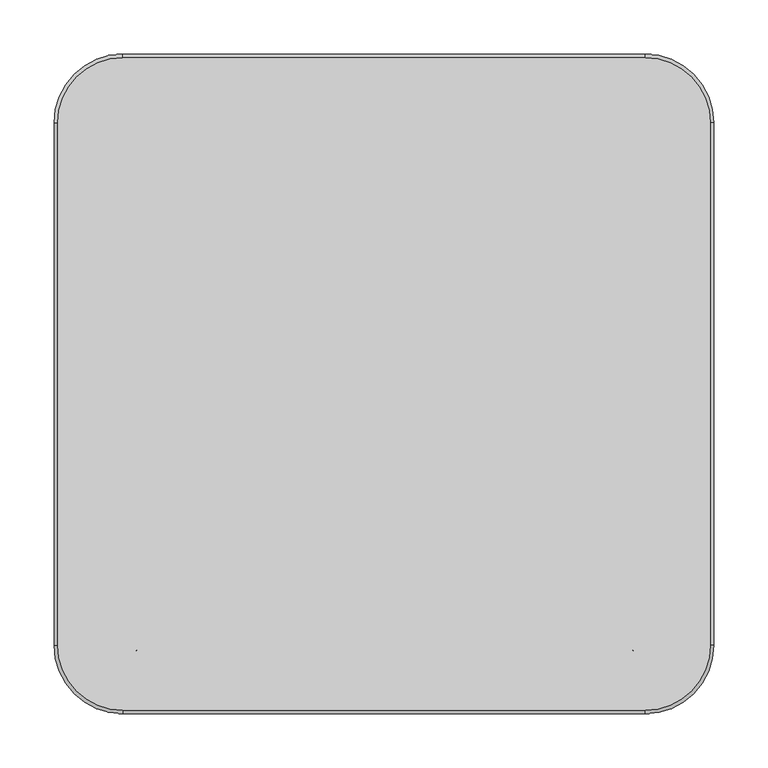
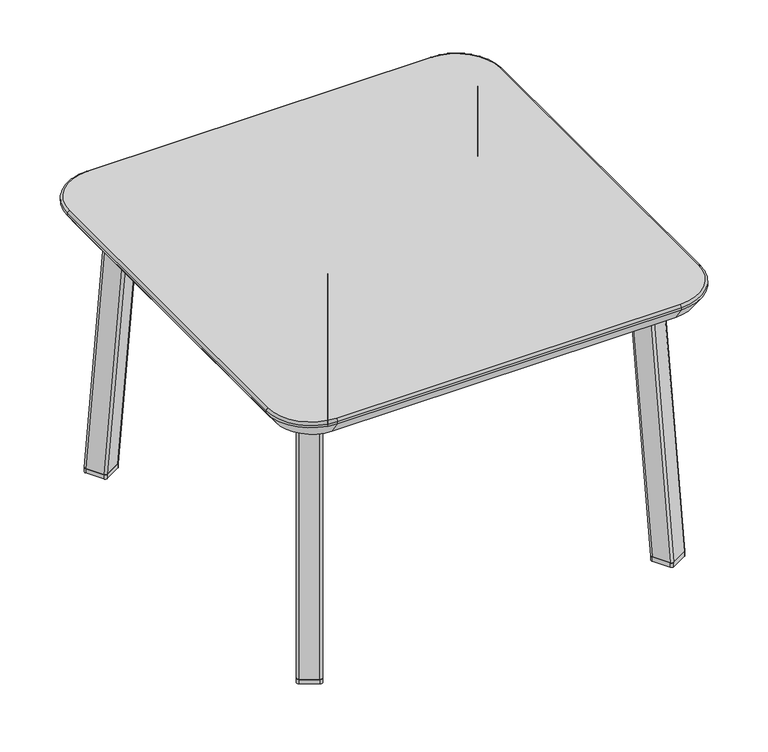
"""IFC4 building model written with IfcOpenShell, lengths in millimetres: furniture geometry, Stance_HC-Jensen-Occasional-Table : JETF242416-T."""

import ifcopenshell
import ifcopenshell.guid

model = None  # the IFC model being written
_history = None  # IfcOwnerHistory: only IFC2X3 demands one
_inside = {}  # id of a spatial element -> (the spatial element, [elements in it])
_under = {}  # id of a project, library or spatial element -> (it, [spatial elements below it])
_declared = {}  # id of a project -> (the project, [libraries it declares])
_typed = {}  # id of a type object -> (the type object, [elements of that type])
_made_of = {}  # id of a material, layer set ... -> (it, [elements and type objects made of it])


def new_model(schema):
    """Start an empty IFC model of exactly this schema.

    Asked for "IFC4X3", IfcOpenShell would pick the latest addendum, in which some entities
    have other attributes; the version numbers below select the first issue.
    IFC2X3 requires an IfcOwnerHistory on every rooted entity: one is made here for all.
    """
    global model, _history
    if schema == "IFC4X3":
        model = ifcopenshell.file(schema_version=(4, 3, 0, 0))
    else:
        model = ifcopenshell.file(schema=schema)
    _inside.clear()
    _under.clear()
    _declared.clear()
    _typed.clear()
    _made_of.clear()
    _history = None
    if model.schema == "IFC2X3":
        org = make("IfcOrganization", Name="unknown")
        user = make(
            "IfcPersonAndOrganization",
            ThePerson=make("IfcPerson", FamilyName="unknown"),
            TheOrganization=org,
        )
        app = make(
            "IfcApplication",
            ApplicationDeveloper=org,
            Version="unknown",
            ApplicationFullName="unknown",
            ApplicationIdentifier="unknown",
        )
        _history = make(
            "IfcOwnerHistory",
            OwningUser=user,
            OwningApplication=app,
            ChangeAction="ADDED",
            CreationDate=0,
        )
    return model


def make(cls, **values):
    """One entity of the class cls with the attributes given. An attribute that is None is left unset."""
    return model.create_entity(
        cls, **{name: value for name, value in values.items() if value is not None}
    )


def rooted(cls, **values):
    """An entity with a GlobalId (a new one), such as an element, a storey or a relation."""
    return make(cls, GlobalId=ifcopenshell.guid.new(), OwnerHistory=_history, **values)


def si_unit(unit_type, name, prefix=None):
    """IfcSIUnit, for example si_unit("LENGTHUNIT", "METRE", prefix="MILLI")."""
    return make("IfcSIUnit", UnitType=unit_type, Prefix=prefix, Name=name)


def assignment(units):
    """IfcUnitAssignment: the units of a project."""
    return None if units is None else make("IfcUnitAssignment", Units=units)


def point(xyz):
    """IfcCartesianPoint."""
    return None if xyz is None else make("IfcCartesianPoint", Coordinates=xyz)


def direction(xyz):
    """IfcDirection."""
    return None if xyz is None else make("IfcDirection", DirectionRatios=xyz)


def frame(location, z_axis=None, x_axis=None):
    """IfcAxis2Placement3D, a coordinate frame: its origin and axes. An axis left out is left unset."""
    return make(
        "IfcAxis2Placement3D",
        Location=point(location),
        Axis=direction(z_axis),
        RefDirection=direction(x_axis),
    )


def frame_2d(location, x_axis=None):
    """IfcAxis2Placement2D, a coordinate frame in the plane: its origin and x axis."""
    return make(
        "IfcAxis2Placement2D", Location=point(location), RefDirection=direction(x_axis)
    )


def origin():
    """The frame at (0, 0, 0) with its axes left unset."""
    return frame((0.0, 0.0, 0.0))


def origin_with_axes():
    """The frame at (0, 0, 0) with the z axis (0, 0, 1) and the x axis (1, 0, 0) written out."""
    return frame((0.0, 0.0, 0.0), z_axis=(0.0, 0.0, 1.0), x_axis=(1.0, 0.0, 0.0))


def place(relative_to, where):
    """IfcLocalPlacement: puts the frame where relative to a parent placement (None: the world)."""
    return make(
        "IfcLocalPlacement", PlacementRelTo=relative_to, RelativePlacement=where
    )


def context(
    kind, dimensions, precision=None, world=None, true_north=None, identifier=None
):
    """IfcGeometricRepresentationContext, for example the 3D "Model" context."""
    return make(
        "IfcGeometricRepresentationContext",
        ContextIdentifier=identifier,
        ContextType=kind,
        CoordinateSpaceDimension=dimensions,
        Precision=precision,
        WorldCoordinateSystem=world,
        TrueNorth=true_north,
    )


def project(units=None, contexts=None):
    """IfcProject with its units and contexts."""
    return rooted(
        "IfcProject",
        Name="project",
        RepresentationContexts=contexts,
        UnitsInContext=assignment(units),
    )


def spatial(cls, under=None, at=None, **own):
    """A site, building, storey or space (cls), placed at a placement, below another one or the project."""
    s = rooted(cls, ObjectPlacement=at, **own)
    if under is not None:
        _under.setdefault(under.id(), (under, []))[1].append(s)
    return s


def polyline(points):
    """IfcPolyline through the points."""
    return make("IfcPolyline", Points=[point(p) for p in points])


def circle_curve(where, radius):
    """IfcCircle in the frame where."""
    return make("IfcCircle", Position=where, Radius=radius)


def ellipse_curve(where, semi_axis1, semi_axis2):
    """IfcEllipse in the frame where."""
    return make(
        "IfcEllipse", Position=where, SemiAxis1=semi_axis1, SemiAxis2=semi_axis2
    )


def trimmed(basis, trim1, trim2, sense, master):
    """IfcTrimmedCurve: the piece of a basis curve between two trims."""
    return make(
        "IfcTrimmedCurve",
        BasisCurve=basis,
        Trim1=trim1,
        Trim2=trim2,
        SenseAgreement=sense,
        MasterRepresentation=master,
    )


def segment(curve, same_sense, transition):
    """IfcCompositeCurveSegment."""
    return make(
        "IfcCompositeCurveSegment",
        Transition=transition,
        SameSense=same_sense,
        ParentCurve=curve,
    )


def composite_curve(segments, self_intersect=None):
    """IfcCompositeCurve: segments joined end to end."""
    return make("IfcCompositeCurve", Segments=segments, SelfIntersect=self_intersect)


def outline(outer, holes=None, kind="AREA"):
    """IfcArbitraryClosedProfileDef: a profile drawn as a closed curve; with holes, ...WithVoids."""
    if holes is None:
        return make("IfcArbitraryClosedProfileDef", ProfileType=kind, OuterCurve=outer)
    return make(
        "IfcArbitraryProfileDefWithVoids",
        ProfileType=kind,
        OuterCurve=outer,
        InnerCurves=holes,
    )


def extrude(swept, where, along, depth):
    """IfcExtrudedAreaSolid: the profile swept, set in the frame where, extruded along a direction by depth."""
    return make(
        "IfcExtrudedAreaSolid",
        SweptArea=swept,
        Position=where,
        ExtrudedDirection=direction(along),
        Depth=depth,
    )


def shape(context_of_items, identifier, shape_type, items):
    """IfcShapeRepresentation: the items that make up one representation, for example the "Body"."""
    return make(
        "IfcShapeRepresentation",
        ContextOfItems=context_of_items,
        RepresentationIdentifier=identifier,
        RepresentationType=shape_type,
        Items=items,
    )


def source(mapping_origin, context_of_items, identifier, shape_type, items):
    """IfcRepresentationMap: a shape defined once, which mapped items show again and again."""
    return make(
        "IfcRepresentationMap",
        MappingOrigin=mapping_origin,
        MappedRepresentation=shape(context_of_items, identifier, shape_type, items),
    )


def transform(
    local_origin,
    x_axis=None,
    y_axis=None,
    z_axis=None,
    scale=None,
    scale2=None,
    scale3=None,
    uniform=True,
):
    """IfcCartesianTransformationOperator3D, or its non-uniform kind. x_axis, y_axis, z_axis: its Axis1, 2, 3."""
    if uniform:
        return make(
            "IfcCartesianTransformationOperator3D",
            Axis1=direction(x_axis),
            Axis2=direction(y_axis),
            LocalOrigin=point(local_origin),
            Scale=scale,
            Axis3=direction(z_axis),
        )
    return make(
        "IfcCartesianTransformationOperator3DnonUniform",
        Axis1=direction(x_axis),
        Axis2=direction(y_axis),
        LocalOrigin=point(local_origin),
        Scale=scale,
        Axis3=direction(z_axis),
        Scale2=scale2,
        Scale3=scale3,
    )


def mapped(mapping_source, mapping_target):
    """IfcMappedItem: shows the shape of a source again, moved by a transform."""
    return make(
        "IfcMappedItem", MappingSource=mapping_source, MappingTarget=mapping_target
    )


def made_of(thing, what):
    """Note that an element or type object is made of a material, layer set ...; save() writes the relation."""
    if what is not None:
        _made_of.setdefault(what.id(), (what, []))[1].append(thing)
    return thing


def element(
    cls,
    number,
    at=None,
    inside=None,
    cuts=None,
    type_object=None,
    material=None,
    context=None,
    identifier="Body",
    shape_type=None,
    held_by="IfcProductDefinitionShape",
    body=None,
    shapes=None,
    **own,
):
    """One element of the class cls, such as IfcWall. Its Tag is "e" and its number.

    at: its placement. inside: the storey or other place that contains it. cuts: it is an
    opening in that element (IfcRelVoidsElement). A single representation is given by context,
    identifier, shape_type and body (its items); several are given by shapes. held_by: the class
    of the entity that holds the representations. save() writes the other relations.
    """
    e = rooted(cls, Tag="e%d" % number, ObjectPlacement=at, **own)
    if body is not None:
        shapes = [shape(context, identifier, shape_type, body)]
    if shapes is not None:
        e.Representation = make(held_by, Representations=shapes)
    if inside is not None:
        _inside.setdefault(inside.id(), (inside, []))[1].append(e)
    if cuts is not None:
        rooted(
            "IfcRelVoidsElement", RelatingBuildingElement=cuts, RelatedOpeningElement=e
        )
    if type_object is not None:
        _typed.setdefault(type_object.id(), (type_object, []))[1].append(e)
    return made_of(e, material)


def aggregate(whole, parts):
    """IfcRelAggregates: a whole, such as a stair, and the parts it consists of."""
    return rooted("IfcRelAggregates", RelatingObject=whole, RelatedObjects=parts)


def save(model, path):
    """Write the relations noted so far, then the file.

    IfcRelAggregates (storeys below a building ...), IfcRelContainedInSpatialStructure (elements
    in a storey), IfcRelDefinesByType, IfcRelAssociatesMaterial and IfcRelDeclares: one each for
    every whole, place, type object, material and project.
    """
    for whole, parts in _under.values():
        aggregate(whole, parts)
    for where, things in _inside.values():
        rooted(
            "IfcRelContainedInSpatialStructure",
            RelatedElements=things,
            RelatingStructure=where,
        )
    for kind, things in _typed.values():
        rooted("IfcRelDefinesByType", RelatedObjects=things, RelatingType=kind)
    for what, things in _made_of.values():
        rooted("IfcRelAssociatesMaterial", RelatedObjects=things, RelatingMaterial=what)
    for by, libraries in _declared.values():
        rooted("IfcRelDeclares", RelatingContext=by, RelatedDefinitions=libraries)
    model.write(path)


def plane_surface(at):
    """IfcPlane: the flat surface through the origin of the frame at, square to its z axis."""
    return make("IfcPlane", Position=at)


def cylinder_surface(at, radius):
    """IfcCylindricalSurface: all points at the distance radius from the z axis of the frame at."""
    return make("IfcCylindricalSurface", Position=at, Radius=radius)


def revolved_surface(curve, axis_point, axis_direction):
    """IfcSurfaceOfRevolution: the curve turned about the line through axis_point along axis_direction."""
    return make(
        "IfcSurfaceOfRevolution",
        SweptCurve=make("IfcArbitraryOpenProfileDef", ProfileType="CURVE", Curve=curve),
        AxisPosition=make("IfcAxis1Placement", Location=point(axis_point), Axis=direction(axis_direction)),
    )


def extruded_surface(curve, direction_of_extrusion, depth):
    """IfcSurfaceOfLinearExtrusion: the curve pushed along a direction by depth."""
    return make(
        "IfcSurfaceOfLinearExtrusion",
        SweptCurve=make("IfcArbitraryOpenProfileDef", ProfileType="CURVE", Curve=curve),
        ExtrudedDirection=direction(direction_of_extrusion),
        Depth=depth,
    )


def advanced_brep(points, edges, surfaces, faces):
    """IfcAdvancedBrep: a solid bounded by faces that lie on surfaces and meet in shared edges.

    An edge is (start, end): straight between two places in points (the first is 0);
    or (start, end, curve); or (start, end, curve, False) where it runs against its curve.
    A face is (place in surfaces, loops), or (place, loops, False) where it looks against
    its surface's normal. A loop lists edges by number (the first is 1), with a minus sign
    where the edge is run from its end to its start. The first loop is the outer one.
    """
    corners = [point(p) for p in points]
    vertices = [make("IfcVertexPoint", VertexGeometry=c) for c in corners]
    made = []
    for start, end, *more in edges:
        made.append(
            make(
                "IfcEdgeCurve",
                EdgeStart=vertices[start],
                EdgeEnd=vertices[end],
                EdgeGeometry=more[0] if more else make("IfcPolyline", Points=[corners[start], corners[end]]),
                SameSense=more[1] if len(more) > 1 else True,
            )
        )
    hull = []
    for where, loops, *sense in faces:
        bounds = []
        for j, loop in enumerate(loops):
            ring = [make("IfcOrientedEdge", EdgeElement=made[abs(k) - 1], Orientation=k > 0) for k in loop]
            bounds.append(
                make(
                    "IfcFaceOuterBound" if j == 0 else "IfcFaceBound",
                    Bound=make("IfcEdgeLoop", EdgeList=ring),
                    Orientation=True,
                )
            )
        hull.append(make("IfcAdvancedFace", Bounds=bounds, FaceSurface=surfaces[where], SameSense=sense[0] if sense else True))
    return make("IfcAdvancedBrep", Outer=make("IfcClosedShell", CfsFaces=hull))


def furniture_91481f12(model_context):
    return source(origin(), model_context, "Body", "SolidModel", [
        extrude(outline(composite_curve([segment(polyline([(270.881574, -260.4321033), (248.8845247, -273.1321056)]), True, "CONTINUOUS"), segment(trimmed(circle_curve(frame_2d((247.2970247, -270.382475)), 3.175), [point((248.8845247, -273.1321056))], [point((244.547394, -271.969975))], False, "CARTESIAN"), True, "CONTINUOUS"), segment(polyline([(244.547394, -271.969975), (231.7983038, -249.887903)]), True, "CONTINUOUS"), segment(trimmed(circle_curve(frame_2d((234.5479345, -248.300403)), 3.175), [point((231.7983038, -249.887903))], [point((232.9604345, -245.5507723))], False, "CARTESIAN"), True, "CONTINUOUS"), segment(polyline([(232.9604345, -245.5507723), (254.9574838, -232.85077)]), True, "CONTINUOUS"), segment(trimmed(circle_curve(frame_2d((256.5449838, -235.6004007)), 3.175), [point((254.9574838, -232.85077))], [point((259.2946144, -234.0129007))], False, "CARTESIAN"), True, "CONTINUOUS"), segment(polyline([(259.2946144, -234.0129007), (272.0437046, -256.0949726)]), True, "CONTINUOUS"), segment(trimmed(circle_curve(frame_2d((269.294074, -257.6824726)), 3.175), [point((272.0437046, -256.0949726))], [point((270.881574, -260.4321033))], False, "CARTESIAN"), True, "CONTINUOUS")], self_intersect=False)), origin_with_axes(), (0.0, 0.0, 1.0), 6.35),
        extrude(outline(composite_curve([segment(polyline([(248.8845247, 273.1321056), (270.881574, 260.4321033)]), True, "CONTINUOUS"), segment(trimmed(circle_curve(frame_2d((269.294074, 257.6824726)), 3.175), [point((270.881574, 260.4321033))], [point((272.0437046, 256.0949726))], False, "CARTESIAN"), True, "CONTINUOUS"), segment(polyline([(272.0437046, 256.0949726), (259.2946144, 234.0129007)]), True, "CONTINUOUS"), segment(trimmed(circle_curve(frame_2d((256.5449838, 235.6004007)), 3.175), [point((259.2946144, 234.0129007))], [point((254.9574838, 232.85077))], False, "CARTESIAN"), True, "CONTINUOUS"), segment(polyline([(254.9574838, 232.85077), (232.9604345, 245.5507723)]), True, "CONTINUOUS"), segment(trimmed(circle_curve(frame_2d((234.5479345, 248.300403)), 3.175), [point((232.9604345, 245.5507723))], [point((231.7983038, 249.887903))], False, "CARTESIAN"), True, "CONTINUOUS"), segment(polyline([(231.7983038, 249.887903), (244.547394, 271.969975)]), True, "CONTINUOUS"), segment(trimmed(circle_curve(frame_2d((247.2970247, 270.382475)), 3.175), [point((244.547394, 271.969975))], [point((248.8845247, 273.1321056))], False, "CARTESIAN"), True, "CONTINUOUS")], self_intersect=False)), origin_with_axes(), (0.0, 0.0, 1.0), 6.35),
        advanced_brep(
        [(218.1120024, -219.8325373, 380.5094413), (216.9498717, -224.1696679, 380.5094413), (229.6989619, -246.2517399, 380.5094413), (234.0360926, -247.4138706, 380.5094413), (256.0331418, -234.7138683, 380.5094413), (257.1952725, -230.3767376, 380.5094413), (244.4461823, -208.2946656, 380.5094413), (240.1090516, -207.132535, 380.5094413), (232.9604345, -245.5507723, 6.35), (254.9574838, -232.85077, 6.35), (259.2946144, -234.0129007, 6.35), (272.0437046, -256.0949726, 6.35), (270.881574, -260.4321033, 6.35), (248.8845247, -273.1321056, 6.35), (244.547394, -271.969975, 6.35), (231.7983038, -249.887903, 6.35)],
        [
            (0, 1, circle_curve(frame((219.6995024, -222.5821679, 380.5094413), z_axis=(0.0, 0.0, 1.0), x_axis=(-1.0, 0.0, 0.0)), 3.175)),
            (1, 2),
            (2, 3, circle_curve(frame((232.4485926, -244.6642399, 380.5094413), z_axis=(0.0, 0.0, 1.0), x_axis=(-1.0, 0.0, 0.0)), 3.175)),
            (3, 4),
            (4, 5, circle_curve(frame((254.4456418, -231.9642376, 380.5094413), z_axis=(0.0, 0.0, 1.0), x_axis=(-1.0, 0.0, 0.0)), 3.175)),
            (5, 6),
            (6, 7, circle_curve(frame((241.6965516, -209.8821656, 380.5094413), z_axis=(0.0, 0.0, 1.0), x_axis=(-1.0, 0.0, 0.0)), 3.175)),
            (7, 0),
            (8, 9),
            (9, 10, circle_curve(frame((256.5449838, -235.6004007, 6.35), z_axis=(0.0, 0.0, -1.0), x_axis=(-1.0, 0.0, 0.0)), 3.175)),
            (10, 11),
            (11, 12, circle_curve(frame((269.294074, -257.6824726, 6.35), z_axis=(0.0, 0.0, -1.0), x_axis=(-1.0, 0.0, 0.0)), 3.175)),
            (12, 13),
            (13, 14, circle_curve(frame((247.2970247, -270.382475, 6.35), z_axis=(0.0, 0.0, -1.0), x_axis=(-1.0, 0.0, 0.0)), 3.175)),
            (14, 15),
            (15, 8, circle_curve(frame((234.5479345, -248.300403, 6.35), z_axis=(0.0, 0.0, -1.0), x_axis=(-1.0, 0.0, 0.0)), 3.175)),
            (15, 1),
            (0, 8),
            (14, 2),
            (13, 3),
            (12, 4),
            (11, 5),
            (10, 6),
            (9, 7),
        ],
        [
            plane_surface(frame((237.0725721, -227.2732028, 380.5094413), z_axis=(0.0, 0.0, 1.0), x_axis=(0.8660254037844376, 0.5000000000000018, 0.0))),
            plane_surface(frame((251.9210042, -252.9914378, 6.35), z_axis=(0.0, 0.0, -1.0), x_axis=(0.8660254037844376, 0.5000000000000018, 0.0))),
            extruded_surface(trimmed(circle_curve(frame((219.6995024, -222.5821679, 380.5094413), z_axis=(0.0, 0.0, -1.0), x_axis=(-1.0, 0.0, 0.0)), 3.175), [point((216.9498717, -224.1696679, 380.5094413))], [point((218.1120024, -219.8325373, 380.5094413))], True, "CARTESIAN"), (14.848432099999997, -25.718235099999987, -374.15944129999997), 375.3361041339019),
            plane_surface(frame((238.1728489, -260.928939, 6.35), z_axis=(-0.8660254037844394, -0.49999999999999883, -5.114262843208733e-09), x_axis=(-0.49999999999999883, 0.8660254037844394, 0.0))),
            extruded_surface(trimmed(circle_curve(frame((232.4485926, -244.6642399, 380.5094413), z_axis=(0.0, 0.0, -1.0), x_axis=(-1.0, 0.0, 0.0)), 3.175), [point((234.0360926, -247.4138706, 380.5094413))], [point((229.6989619, -246.2517399, 380.5094413))], True, "CARTESIAN"), (14.848432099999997, -25.718235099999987, -374.15944129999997), 375.3361041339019),
            plane_surface(frame((259.8830493, -266.7821045, 6.35), z_axis=(0.49843252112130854, -0.8633104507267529, 0.0791207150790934), x_axis=(-0.8660254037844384, -0.5000000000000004, 0.0))),
            extruded_surface(trimmed(circle_curve(frame((254.4456418, -231.9642376, 380.5094413), z_axis=(0.0, 0.0, -1.0), x_axis=(-1.0, 0.0, 0.0)), 3.175), [point((257.1952725, -230.3767376, 380.5094413))], [point((256.0331418, -234.7138683, 380.5094413))], True, "CARTESIAN"), (14.848432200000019, -25.718234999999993, -374.15944129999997), 375.3361041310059),
            plane_surface(frame((265.6691595, -245.0539367, 6.35), z_axis=(0.8660254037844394, 0.4999999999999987, 5.114262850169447e-09), x_axis=(0.4999999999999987, -0.8660254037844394, 0.0))),
            extruded_surface(trimmed(circle_curve(frame((241.6965516, -209.8821656, 380.5094413), z_axis=(0.0, 0.0, -1.0), x_axis=(-1.0, 0.0, 0.0)), 3.175), [point((240.1090516, -207.132535, 380.5094413))], [point((244.4461823, -208.2946656, 380.5094413))], True, "CARTESIAN"), (14.848432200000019, -25.718235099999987, -374.15944129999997), 375.336104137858),
            plane_surface(frame((243.9589591, -239.2007712, 6.35), z_axis=(-0.49843252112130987, 0.8633104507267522, -0.07912071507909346), x_axis=(0.8660254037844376, 0.5000000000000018, 0.0))),
        ],
        [
            (0, [[1, 2, 3, 4, 5, 6, 7, 8]]),
            (1, [[9, 10, 11, 12, 13, 14, 15, 16]]),
            (2, [[17, -1, 18, -16]]),
            (3, [[19, -2, -17, -15]]),
            (4, [[20, -3, -19, -14]]),
            (5, [[21, -4, -20, -13]]),
            (6, [[22, -5, -21, -12]]),
            (7, [[23, -6, -22, -11]]),
            (8, [[24, -7, -23, -10]]),
            (9, [[-18, -8, -24, -9]]),
        ],
    ),
        extrude(outline(polyline([(276.9820372, 251.9484113), (131.4453703, 0.0), (276.9820372, -251.9484113), (238.5068508, -274.1733992), (80.1320372, 0.0), (238.5068508, 274.1733992), (276.9820372, 251.9484113)])), frame((0.0, 0.0, 380.5094413), z_axis=(0.0, 0.0, 1.0), x_axis=(1.0, 0.0, 0.0)), (0.0, 0.0, 1.0), 3.1749879),
        advanced_brep(
        [(218.1120024, 219.8325373, 380.5094413), (240.1090516, 207.132535, 380.5094413), (244.4461823, 208.2946656, 380.5094413), (257.1952725, 230.3767376, 380.5094413), (256.0331418, 234.7138683, 380.5094413), (234.0360926, 247.4138706, 380.5094413), (229.6989619, 246.2517399, 380.5094413), (216.9498717, 224.1696679, 380.5094413), (232.9604345, 245.5507723, 6.35), (231.7983038, 249.887903, 6.35), (244.547394, 271.969975, 6.35), (248.8845247, 273.1321056, 6.35), (270.881574, 260.4321033, 6.35), (272.0437046, 256.0949726, 6.35), (259.2946144, 234.0129007, 6.35), (254.9574838, 232.85077, 6.35)],
        [
            (0, 1),
            (1, 2, circle_curve(frame((241.6965516, 209.8821656, 380.5094413), z_axis=(0.0, 0.0, 1.0), x_axis=(-1.0, 0.0, 0.0)), 3.175)),
            (2, 3),
            (3, 4, circle_curve(frame((254.4456418, 231.9642376, 380.5094413), z_axis=(0.0, 0.0, 1.0), x_axis=(-1.0, 0.0, 0.0)), 3.175)),
            (4, 5),
            (5, 6, circle_curve(frame((232.4485926, 244.6642399, 380.5094413), z_axis=(0.0, 0.0, 1.0), x_axis=(-1.0, 0.0, 0.0)), 3.175)),
            (6, 7),
            (7, 0, circle_curve(frame((219.6995024, 222.5821679, 380.5094413), z_axis=(0.0, 0.0, 1.0), x_axis=(-1.0, 0.0, 0.0)), 3.175)),
            (8, 9, circle_curve(frame((234.5479345, 248.300403, 6.35), z_axis=(0.0, 0.0, -1.0), x_axis=(-1.0, 0.0, 0.0)), 3.175)),
            (9, 10),
            (10, 11, circle_curve(frame((247.2970247, 270.382475, 6.35), z_axis=(0.0, 0.0, -1.0), x_axis=(-1.0, 0.0, 0.0)), 3.175)),
            (11, 12),
            (12, 13, circle_curve(frame((269.294074, 257.6824726, 6.35), z_axis=(0.0, 0.0, -1.0), x_axis=(-1.0, 0.0, 0.0)), 3.175)),
            (13, 14),
            (14, 15, circle_curve(frame((256.5449838, 235.6004007, 6.35), z_axis=(0.0, 0.0, -1.0), x_axis=(-1.0, 0.0, 0.0)), 3.175)),
            (15, 8),
            (8, 0),
            (7, 9),
            (6, 10),
            (5, 11),
            (4, 12),
            (3, 13),
            (2, 14),
            (1, 15),
        ],
        [
            plane_surface(frame((237.0725721, 227.2732028, 380.5094413), z_axis=(0.0, 0.0, 1.0), x_axis=(-0.8660254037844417, 0.49999999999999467, 0.0))),
            plane_surface(frame((251.9210042, 252.9914378, 6.35), z_axis=(0.0, 0.0, -1.0), x_axis=(-0.8660254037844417, 0.49999999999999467, 0.0))),
            extruded_surface(trimmed(circle_curve(frame((219.6995024, 222.5821679, 380.5094413), z_axis=(0.0, 0.0, -1.0), x_axis=(-1.0, 0.0, 0.0)), 3.175), [point((218.1120024, 219.8325373, 380.5094413))], [point((216.9498717, 224.1696679, 380.5094413))], True, "CARTESIAN"), (14.848432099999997, 25.718235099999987, -374.15944129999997), 375.3361041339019),
            plane_surface(frame((238.1728489, 260.928939, 6.35), z_axis=(-0.8660254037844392, 0.49999999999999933, -5.114262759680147e-09), x_axis=(0.49999999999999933, 0.8660254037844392, 0.0))),
            extruded_surface(trimmed(circle_curve(frame((232.4485926, 244.6642399, 380.5094413), z_axis=(0.0, 0.0, -1.0), x_axis=(-1.0, 0.0, 0.0)), 3.175), [point((229.6989619, 246.2517399, 380.5094413))], [point((234.0360926, 247.4138706, 380.5094413))], True, "CARTESIAN"), (14.848432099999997, 25.718235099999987, -374.15944129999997), 375.3361041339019),
            plane_surface(frame((259.8830493, 266.7821045, 6.35), z_axis=(0.4984325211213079, 0.8633104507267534, 0.07912071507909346), x_axis=(0.8660254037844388, -0.49999999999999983, 0.0))),
            extruded_surface(trimmed(circle_curve(frame((254.4456418, 231.9642376, 380.5094413), z_axis=(0.0, 0.0, -1.0), x_axis=(-1.0, 0.0, 0.0)), 3.175), [point((256.0331418, 234.7138683, 380.5094413))], [point((257.1952725, 230.3767376, 380.5094413))], True, "CARTESIAN"), (14.848432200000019, 25.718234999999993, -374.15944129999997), 375.3361041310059),
            plane_surface(frame((265.6691595, 245.0539367, 6.35), z_axis=(0.8660254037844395, -0.49999999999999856, 5.1142629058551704e-09), x_axis=(-0.49999999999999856, -0.8660254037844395, 0.0))),
            extruded_surface(trimmed(circle_curve(frame((241.6965516, 209.8821656, 380.5094413), z_axis=(0.0, 0.0, -1.0), x_axis=(-1.0, 0.0, 0.0)), 3.175), [point((244.4461823, 208.2946656, 380.5094413))], [point((240.1090516, 207.132535, 380.5094413))], True, "CARTESIAN"), (14.848432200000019, 25.718235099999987, -374.15944129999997), 375.336104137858),
            plane_surface(frame((243.9589591, 239.2007712, 6.35), z_axis=(-0.49843252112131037, -0.863310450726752, -0.07912071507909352), x_axis=(-0.8660254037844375, 0.5000000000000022, 0.0))),
        ],
        [
            (0, [[1, 2, 3, 4, 5, 6, 7, 8]]),
            (1, [[9, 10, 11, 12, 13, 14, 15, 16]]),
            (2, [[17, -8, 18, -9]]),
            (3, [[-18, -7, 19, -10]]),
            (4, [[-19, -6, 20, -11]]),
            (5, [[-20, -5, 21, -12]]),
            (6, [[-21, -4, 22, -13]]),
            (7, [[-22, -3, 23, -14]]),
            (8, [[-23, -2, 24, -15]]),
            (9, [[-24, -1, -17, -16]]),
        ],
    ),
        extrude(outline(composite_curve([segment(trimmed(circle_curve(frame_2d((-267.890244, -257.6824726)), 3.175), [point((-269.477744, -260.4321033))], [point((-270.6398747, -256.0949726))], False, "CARTESIAN"), True, "CONTINUOUS"), segment(polyline([(-270.6398747, -256.0949726), (-257.8907845, -234.0129007)]), True, "CONTINUOUS"), segment(trimmed(circle_curve(frame_2d((-255.1411538, -235.6004007)), 3.175), [point((-257.8907845, -234.0129007))], [point((-253.5536538, -232.85077))], False, "CARTESIAN"), True, "CONTINUOUS"), segment(polyline([(-253.5536538, -232.85077), (-231.5566046, -245.5507723)]), True, "CONTINUOUS"), segment(trimmed(circle_curve(frame_2d((-233.1441046, -248.300403)), 3.175), [point((-231.5566046, -245.5507723))], [point((-230.3944739, -249.887903))], False, "CARTESIAN"), True, "CONTINUOUS"), segment(polyline([(-230.3944739, -249.887903), (-243.1435641, -271.969975)]), True, "CONTINUOUS"), segment(trimmed(circle_curve(frame_2d((-245.8931948, -270.382475)), 3.175), [point((-243.1435641, -271.969975))], [point((-247.4806948, -273.1321056))], False, "CARTESIAN"), True, "CONTINUOUS"), segment(polyline([(-247.4806948, -273.1321056), (-269.477744, -260.4321033)]), True, "CONTINUOUS")], self_intersect=False)), origin_with_axes(), (0.0, 0.0, 1.0), 6.35),
        extrude(outline(composite_curve([segment(trimmed(circle_curve(frame_2d((-245.8931948, 270.382475)), 3.175), [point((-247.4806948, 273.1321056))], [point((-243.1435641, 271.969975))], False, "CARTESIAN"), True, "CONTINUOUS"), segment(polyline([(-243.1435641, 271.969975), (-230.3944739, 249.887903)]), True, "CONTINUOUS"), segment(trimmed(circle_curve(frame_2d((-233.1441046, 248.300403)), 3.175), [point((-230.3944739, 249.887903))], [point((-231.5566046, 245.5507723))], False, "CARTESIAN"), True, "CONTINUOUS"), segment(polyline([(-231.5566046, 245.5507723), (-253.5536538, 232.85077)]), True, "CONTINUOUS"), segment(trimmed(circle_curve(frame_2d((-255.1411538, 235.6004007)), 3.175), [point((-253.5536538, 232.85077))], [point((-257.8907845, 234.0129007))], False, "CARTESIAN"), True, "CONTINUOUS"), segment(polyline([(-257.8907845, 234.0129007), (-270.6398747, 256.0949726)]), True, "CONTINUOUS"), segment(trimmed(circle_curve(frame_2d((-267.890244, 257.6824726)), 3.175), [point((-270.6398747, 256.0949726))], [point((-269.477744, 260.4321033))], False, "CARTESIAN"), True, "CONTINUOUS"), segment(polyline([(-269.477744, 260.4321033), (-247.4806948, 273.1321056)]), True, "CONTINUOUS")], self_intersect=False)), origin_with_axes(), (0.0, 0.0, 1.0), 6.35),
        advanced_brep(
        [(-216.7081724, -219.8325373, 380.5094413), (-238.7052217, -207.132535, 380.5094413), (-243.0423524, -208.2946656, 380.5094413), (-255.7914426, -230.3767376, 380.5094413), (-254.6293119, -234.7138683, 380.5094413), (-232.6322626, -247.4138706, 380.5094413), (-228.295132, -246.2517399, 380.5094413), (-215.5460418, -224.1696679, 380.5094413), (-231.5566046, -245.5507723, 6.35), (-230.3944739, -249.887903, 6.35), (-243.1435641, -271.969975, 6.35), (-247.4806948, -273.1321056, 6.35), (-269.477744, -260.4321033, 6.35), (-270.6398747, -256.0949726, 6.35), (-257.8907845, -234.0129007, 6.35), (-253.5536538, -232.85077, 6.35)],
        [
            (0, 1),
            (1, 2, circle_curve(frame((-240.2927217, -209.8821656, 380.5094413), z_axis=(0.0, 0.0, 1.0), x_axis=(1.0, 0.0, 0.0)), 3.175)),
            (2, 3),
            (3, 4, circle_curve(frame((-253.0418119, -231.9642376, 380.5094413), z_axis=(0.0, 0.0, 1.0), x_axis=(1.0, 0.0, 0.0)), 3.175)),
            (4, 5),
            (5, 6, circle_curve(frame((-231.0447626, -244.6642399, 380.5094413), z_axis=(0.0, 0.0, 1.0), x_axis=(1.0, 0.0, 0.0)), 3.175)),
            (6, 7),
            (7, 0, circle_curve(frame((-218.2956724, -222.5821679, 380.5094413), z_axis=(0.0, 0.0, 1.0), x_axis=(1.0, 0.0, 0.0)), 3.175)),
            (8, 9, circle_curve(frame((-233.1441046, -248.300403, 6.35), z_axis=(0.0, 0.0, -1.0), x_axis=(1.0, 0.0, 0.0)), 3.175)),
            (9, 10),
            (10, 11, circle_curve(frame((-245.8931948, -270.382475, 6.35), z_axis=(0.0, 0.0, -1.0), x_axis=(1.0, 0.0, 0.0)), 3.175)),
            (11, 12),
            (12, 13, circle_curve(frame((-267.890244, -257.6824726, 6.35), z_axis=(0.0, 0.0, -1.0), x_axis=(1.0, 0.0, 0.0)), 3.175)),
            (13, 14),
            (14, 15, circle_curve(frame((-255.1411538, -235.6004007, 6.35), z_axis=(0.0, 0.0, -1.0), x_axis=(1.0, 0.0, 0.0)), 3.175)),
            (15, 8),
            (8, 0),
            (7, 9),
            (6, 10),
            (5, 11),
            (4, 12),
            (3, 13),
            (2, 14),
            (1, 15),
        ],
        [
            plane_surface(frame((-235.6687422, -227.2732028, 380.5094413), z_axis=(0.0, 0.0, 1.0), x_axis=(-0.8660254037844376, 0.5000000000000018, 0.0))),
            plane_surface(frame((-250.5171743, -252.9914378, 6.35), z_axis=(0.0, 0.0, -1.0), x_axis=(-0.8660254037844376, 0.5000000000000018, 0.0))),
            extruded_surface(trimmed(circle_curve(frame((-233.1441046, -248.300403, 6.35), z_axis=(0.0, 0.0, 1.0), x_axis=(1.0, 0.0, 0.0)), 3.175), [point((-230.3944739, -249.887903, 6.35))], [point((-231.5566046, -245.5507723, 6.35))], True, "CARTESIAN"), (14.84843219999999, 25.718235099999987, 374.15944129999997), 375.336104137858),
            plane_surface(frame((-236.769019, -260.928939, 6.35), z_axis=(0.8660254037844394, -0.49999999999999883, -5.114262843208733e-09), x_axis=(0.49999999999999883, 0.8660254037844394, 0.0))),
            extruded_surface(trimmed(circle_curve(frame((-245.8931948, -270.382475, 6.35), z_axis=(0.0, 0.0, 1.0), x_axis=(1.0, 0.0, 0.0)), 3.175), [point((-247.4806948, -273.1321056, 6.35))], [point((-243.1435641, -271.969975, 6.35))], True, "CARTESIAN"), (14.84843219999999, 25.718235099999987, 374.15944129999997), 375.336104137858),
            plane_surface(frame((-258.4792194, -266.7821045, 6.35), z_axis=(-0.49843252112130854, -0.8633104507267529, 0.0791207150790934), x_axis=(0.8660254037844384, -0.5000000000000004, 0.0))),
            extruded_surface(trimmed(circle_curve(frame((-267.890244, -257.6824726, 6.35), z_axis=(0.0, 0.0, 1.0), x_axis=(1.0, 0.0, 0.0)), 3.175), [point((-270.6398747, -256.0949726, 6.35))], [point((-269.477744, -260.4321033, 6.35))], True, "CARTESIAN"), (14.848432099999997, 25.718234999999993, 374.15944129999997), 375.3361041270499),
            plane_surface(frame((-264.2653296, -245.0539367, 6.35), z_axis=(-0.8660254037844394, 0.4999999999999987, 5.114262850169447e-09), x_axis=(-0.4999999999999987, -0.8660254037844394, 0.0))),
            extruded_surface(trimmed(circle_curve(frame((-255.1411538, -235.6004007, 6.35), z_axis=(0.0, 0.0, 1.0), x_axis=(1.0, 0.0, 0.0)), 3.175), [point((-253.5536538, -232.85077, 6.35))], [point((-257.8907845, -234.0129007, 6.35))], True, "CARTESIAN"), (14.848432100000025, 25.718235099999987, 374.15944129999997), 375.3361041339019),
            plane_surface(frame((-242.5551292, -239.2007712, 6.35), z_axis=(0.49843252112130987, 0.8633104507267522, -0.07912071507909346), x_axis=(-0.8660254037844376, 0.5000000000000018, 0.0))),
        ],
        [
            (0, [[1, 2, 3, 4, 5, 6, 7, 8]]),
            (1, [[9, 10, 11, 12, 13, 14, 15, 16]]),
            (2, [[-9, 17, -8, 18]]),
            (3, [[-10, -18, -7, 19]]),
            (4, [[-11, -19, -6, 20]]),
            (5, [[-12, -20, -5, 21]]),
            (6, [[-13, -21, -4, 22]]),
            (7, [[-14, -22, -3, 23]]),
            (8, [[-15, -23, -2, 24]]),
            (9, [[-16, -24, -1, -17]]),
        ],
    ),
        extrude(outline(polyline([(-275.5782073, 251.9484113), (-237.1030209, 274.1733992), (-78.7282073, 0.0), (-237.1030209, -274.1733992), (-275.5782073, -251.9484113), (-130.0415404, 0.0), (-275.5782073, 251.9484113)])), frame((0.0, 0.0, 380.5094413), z_axis=(0.0, 0.0, 1.0), x_axis=(1.0, 0.0, 0.0)), (0.0, 0.0, 1.0), 3.1749879),
        advanced_brep(
        [(-216.7081724, 219.8325373, 380.5094413), (-215.5460418, 224.1696679, 380.5094413), (-228.295132, 246.2517399, 380.5094413), (-232.6322626, 247.4138706, 380.5094413), (-254.6293119, 234.7138683, 380.5094413), (-255.7914426, 230.3767376, 380.5094413), (-243.0423524, 208.2946656, 380.5094413), (-238.7052217, 207.132535, 380.5094413), (-231.5566046, 245.5507723, 6.35), (-253.5536538, 232.85077, 6.35), (-257.8907845, 234.0129007, 6.35), (-270.6398747, 256.0949726, 6.35), (-269.477744, 260.4321033, 6.35), (-247.4806948, 273.1321056, 6.35), (-243.1435641, 271.969975, 6.35), (-230.3944739, 249.887903, 6.35)],
        [
            (0, 1, circle_curve(frame((-218.2956724, 222.5821679, 380.5094413), z_axis=(0.0, 0.0, 1.0), x_axis=(1.0, 0.0, 0.0)), 3.175)),
            (1, 2),
            (2, 3, circle_curve(frame((-231.0447626, 244.6642399, 380.5094413), z_axis=(0.0, 0.0, 1.0), x_axis=(1.0, 0.0, 0.0)), 3.175)),
            (3, 4),
            (4, 5, circle_curve(frame((-253.0418119, 231.9642376, 380.5094413), z_axis=(0.0, 0.0, 1.0), x_axis=(1.0, 0.0, 0.0)), 3.175)),
            (5, 6),
            (6, 7, circle_curve(frame((-240.2927217, 209.8821656, 380.5094413), z_axis=(0.0, 0.0, 1.0), x_axis=(1.0, 0.0, 0.0)), 3.175)),
            (7, 0),
            (8, 9),
            (9, 10, circle_curve(frame((-255.1411538, 235.6004007, 6.35), z_axis=(0.0, 0.0, -1.0), x_axis=(1.0, 0.0, 0.0)), 3.175)),
            (10, 11),
            (11, 12, circle_curve(frame((-267.890244, 257.6824726, 6.35), z_axis=(0.0, 0.0, -1.0), x_axis=(1.0, 0.0, 0.0)), 3.175)),
            (12, 13),
            (13, 14, circle_curve(frame((-245.8931948, 270.382475, 6.35), z_axis=(0.0, 0.0, -1.0), x_axis=(1.0, 0.0, 0.0)), 3.175)),
            (14, 15),
            (15, 8, circle_curve(frame((-233.1441046, 248.300403, 6.35), z_axis=(0.0, 0.0, -1.0), x_axis=(1.0, 0.0, 0.0)), 3.175)),
            (15, 1),
            (0, 8),
            (14, 2),
            (13, 3),
            (12, 4),
            (11, 5),
            (10, 6),
            (9, 7),
        ],
        [
            plane_surface(frame((-235.6687422, 227.2732028, 380.5094413), z_axis=(0.0, 0.0, 1.0), x_axis=(0.8660254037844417, 0.49999999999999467, 0.0))),
            plane_surface(frame((-250.5171743, 252.9914378, 6.35), z_axis=(0.0, 0.0, -1.0), x_axis=(0.8660254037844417, 0.49999999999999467, 0.0))),
            extruded_surface(trimmed(circle_curve(frame((-233.1441046, 248.300403, 6.35), z_axis=(0.0, 0.0, 1.0), x_axis=(1.0, 0.0, 0.0)), 3.175), [point((-231.5566046, 245.5507723, 6.35))], [point((-230.3944739, 249.887903, 6.35))], True, "CARTESIAN"), (14.84843219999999, -25.718235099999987, 374.15944129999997), 375.336104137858),
            plane_surface(frame((-236.769019, 260.928939, 6.35), z_axis=(0.8660254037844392, 0.49999999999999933, -5.114262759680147e-09), x_axis=(-0.49999999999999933, 0.8660254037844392, 0.0))),
            extruded_surface(trimmed(circle_curve(frame((-245.8931948, 270.382475, 6.35), z_axis=(0.0, 0.0, 1.0), x_axis=(1.0, 0.0, 0.0)), 3.175), [point((-243.1435641, 271.969975, 6.35))], [point((-247.4806948, 273.1321056, 6.35))], True, "CARTESIAN"), (14.84843219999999, -25.718235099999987, 374.15944129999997), 375.336104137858),
            plane_surface(frame((-258.4792194, 266.7821045, 6.35), z_axis=(-0.4984325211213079, 0.8633104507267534, 0.07912071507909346), x_axis=(-0.8660254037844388, -0.49999999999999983, 0.0))),
            extruded_surface(trimmed(circle_curve(frame((-267.890244, 257.6824726, 6.35), z_axis=(0.0, 0.0, 1.0), x_axis=(1.0, 0.0, 0.0)), 3.175), [point((-269.477744, 260.4321033, 6.35))], [point((-270.6398747, 256.0949726, 6.35))], True, "CARTESIAN"), (14.848432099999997, -25.718234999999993, 374.15944129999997), 375.3361041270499),
            plane_surface(frame((-264.2653296, 245.0539367, 6.35), z_axis=(-0.8660254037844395, -0.49999999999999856, 5.1142629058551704e-09), x_axis=(0.49999999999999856, -0.8660254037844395, 0.0))),
            extruded_surface(trimmed(circle_curve(frame((-255.1411538, 235.6004007, 6.35), z_axis=(0.0, 0.0, 1.0), x_axis=(1.0, 0.0, 0.0)), 3.175), [point((-257.8907845, 234.0129007, 6.35))], [point((-253.5536538, 232.85077, 6.35))], True, "CARTESIAN"), (14.848432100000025, -25.718235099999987, 374.15944129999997), 375.3361041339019),
            plane_surface(frame((-242.5551292, 239.2007712, 6.35), z_axis=(0.49843252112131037, -0.863310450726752, -0.07912071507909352), x_axis=(0.8660254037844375, 0.5000000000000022, 0.0))),
        ],
        [
            (0, [[1, 2, 3, 4, 5, 6, 7, 8]]),
            (1, [[9, 10, 11, 12, 13, 14, 15, 16]]),
            (2, [[-16, 17, -1, 18]]),
            (3, [[-15, 19, -2, -17]]),
            (4, [[-14, 20, -3, -19]]),
            (5, [[-13, 21, -4, -20]]),
            (6, [[-12, 22, -5, -21]]),
            (7, [[-11, 23, -6, -22]]),
            (8, [[-10, 24, -7, -23]]),
            (9, [[-9, -18, -8, -24]]),
        ],
    ),
        advanced_brep(
        [(304.8, -241.3, 405.9094413), (241.3, -304.8, 405.9094413), (241.3, -304.8, 402.7343928), (304.8, -241.3, 402.7343928), (241.3, -291.4610718, 383.6844292), (291.4610718, -241.3, 383.6844292), (304.8, 241.3, 402.7343928), (304.8, 241.3, 405.9094413), (291.4610718, 241.3, 383.6844292), (241.3, 304.8, 402.7343928), (241.3, 304.8, 405.9094413), (241.3, 291.4610718, 383.6844292), (-241.3, 304.8, 402.7343928), (-241.3, 304.8, 405.9094413), (-241.3, 291.4610718, 383.6844292), (-304.8, 241.3, 402.7343928), (-304.8, 241.3, 405.9094413), (-291.4610718, 241.3, 383.6844292), (-304.8, -241.3, 402.7343928), (-304.8, -241.3, 405.9094413), (-291.4610718, -241.3, 383.6844292), (-241.3, -304.8, 402.7343928), (-241.3, -304.8, 405.9094413), (-241.3, -291.4610718, 383.6844292), (-301.625, 241.3, 409.0844413), (-301.625, -241.3, 409.0844413), (-241.3, -301.625, 409.0844413), (241.3, -301.625, 409.0844413), (301.625, -241.3, 409.0844413), (301.625, 241.3, 409.0844413), (241.3, 301.625, 409.0844413), (-241.3, 301.625, 409.0844413)],
        [
            (0, 1, circle_curve(frame((241.3, -241.3, 405.9094413), z_axis=(0.0, 0.0, -1.0), x_axis=(0.0, -1.0, 0.0)), 63.5)),
            (1, 2),
            (2, 3, circle_curve(frame((241.3, -241.3, 402.7343928), z_axis=(0.0, 0.0, 1.0), x_axis=(0.0, -1.0, 0.0)), 63.5)),
            (3, 0),
            (2, 4),
            (4, 5, circle_curve(frame((241.3, -241.3, 383.6844292), z_axis=(0.0, 0.0, 1.0), x_axis=(0.0, -1.0, 0.0)), 50.1610718)),
            (5, 3),
            (3, 6),
            (6, 7),
            (7, 0),
            (5, 8),
            (8, 6),
            (6, 9, circle_curve(frame((241.3, 241.3, 402.7343928), z_axis=(0.0, 0.0, 1.0), x_axis=(1.0, 0.0, 0.0)), 63.5)),
            (9, 10),
            (10, 7, circle_curve(frame((241.3, 241.3, 405.9094413), z_axis=(0.0, 0.0, -1.0), x_axis=(1.0, 0.0, 0.0)), 63.5)),
            (8, 11, circle_curve(frame((241.3, 241.3, 383.6844292), z_axis=(0.0, 0.0, 1.0), x_axis=(1.0, 0.0, 0.0)), 50.1610718)),
            (11, 9),
            (9, 12),
            (12, 13),
            (13, 10),
            (11, 14),
            (14, 12),
            (12, 15, circle_curve(frame((-241.3, 241.3, 402.7343928), z_axis=(0.0, 0.0, 1.0), x_axis=(0.0, 1.0, 0.0)), 63.5)),
            (15, 16),
            (16, 13, circle_curve(frame((-241.3, 241.3, 405.9094413), z_axis=(0.0, 0.0, -1.0), x_axis=(0.0, 1.0, 0.0)), 63.5)),
            (14, 17, circle_curve(frame((-241.3, 241.3, 383.6844292), z_axis=(0.0, 0.0, 1.0), x_axis=(0.0, 1.0, 0.0)), 50.1610718)),
            (17, 15),
            (15, 18),
            (18, 19),
            (19, 16),
            (17, 20),
            (20, 18),
            (18, 21, circle_curve(frame((-241.3, -241.3, 402.7343928), z_axis=(0.0, 0.0, 1.0), x_axis=(-1.0, 0.0, 0.0)), 63.5)),
            (21, 22),
            (22, 19, circle_curve(frame((-241.3, -241.3, 405.9094413), z_axis=(0.0, 0.0, -1.0), x_axis=(-1.0, 0.0, 0.0)), 63.5)),
            (20, 23, circle_curve(frame((-241.3, -241.3, 383.6844292), z_axis=(0.0, 0.0, 1.0), x_axis=(-1.0, 0.0, 0.0)), 50.1610718)),
            (23, 21),
            (1, 22),
            (21, 2),
            (24, 25),
            (25, 26, circle_curve(frame((-241.3, -241.3, 409.0844413), z_axis=(0.0, 0.0, 1.0), x_axis=(-1.0, 0.0, 0.0)), 60.325)),
            (26, 27),
            (27, 28, circle_curve(frame((241.3, -241.3, 409.0844413), z_axis=(0.0, 0.0, 1.0), x_axis=(0.0, -1.0, 0.0)), 60.325)),
            (28, 29),
            (29, 30, circle_curve(frame((241.3, 241.3, 409.0844413), z_axis=(0.0, 0.0, 1.0), x_axis=(1.0, 0.0, 0.0)), 60.325)),
            (30, 31),
            (31, 24, circle_curve(frame((-241.3, 241.3, 409.0844413), z_axis=(0.0, 0.0, 1.0), x_axis=(0.0, 1.0, 0.0)), 60.325)),
            (4, 23),
            (0, 28, circle_curve(frame((301.625, -241.3, 405.9094413), z_axis=(0.0, -1.0, 0.0), x_axis=(-1.0, 0.0, 0.0)), 3.175)),
            (27, 1, circle_curve(frame((241.3, -301.625, 405.9094413), z_axis=(1.0, 0.0, 0.0), x_axis=(0.0, 1.0, 0.0)), 3.175)),
            (7, 29, circle_curve(frame((301.625, 241.3, 405.9094413), z_axis=(0.0, -1.0, 0.0), x_axis=(-1.0, 0.0, 0.0)), 3.175)),
            (10, 30, circle_curve(frame((241.3, 301.625, 405.9094413), z_axis=(1.0, 0.0, 0.0), x_axis=(0.0, -1.0, 0.0)), 3.175)),
            (13, 31, circle_curve(frame((-241.3, 301.625, 405.9094413), z_axis=(1.0, 0.0, 0.0), x_axis=(0.0, -1.0, 0.0)), 3.175)),
            (16, 24, circle_curve(frame((-301.625, 241.3, 405.9094413), z_axis=(0.0, 1.0, 0.0), x_axis=(1.0, 0.0, 0.0)), 3.175)),
            (19, 25, circle_curve(frame((-301.625, -241.3, 405.9094413), z_axis=(0.0, 1.0, 0.0), x_axis=(1.0, 0.0, 0.0)), 3.175)),
            (22, 26, circle_curve(frame((-241.3, -301.625, 405.9094413), z_axis=(-1.0, 0.0, 0.0), x_axis=(0.0, 1.0, 0.0)), 3.175)),
        ],
        [
            cylinder_surface(frame((241.3, -241.3, 409.0844413), z_axis=(0.0, 0.0, 1.0), x_axis=(0.0, -1.0, 0.0)), 63.5),
            revolved_surface(polyline([(241.3, -291.4610718, 383.6844292), (241.3, -304.8, 402.7343928)]), (241.3, -241.3, 409.0844413), (0.0, 0.0, 1.0)),
            plane_surface(frame((304.8, -241.3, 402.7343928), z_axis=(1.0, 0.0, 0.0), x_axis=(0.0, 1.0, 0.0))),
            plane_surface(frame((291.4610718, -241.3, 383.6844292), z_axis=(0.8191520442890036, 0.0, -0.5735764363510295), x_axis=(0.0, 1.0, 0.0))),
            cylinder_surface(frame((241.3, 241.3, 409.0844413), z_axis=(0.0, 0.0, 1.0), x_axis=(1.0, 0.0, 0.0)), 63.5),
            revolved_surface(polyline([(291.4610718, 241.3, 383.6844292), (304.8, 241.3, 402.7343928)]), (241.3, 241.3, 409.0844413), (0.0, 0.0, 1.0)),
            plane_surface(frame((241.3, 304.8, 402.7343928), z_axis=(0.0, 1.0, 0.0), x_axis=(-1.0, 0.0, 0.0))),
            plane_surface(frame((241.3, 291.4610718, 383.6844292), z_axis=(0.0, 0.8191520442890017, -0.5735764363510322), x_axis=(-1.0, 0.0, 0.0))),
            cylinder_surface(frame((-241.3, 241.3, 409.0844413), z_axis=(0.0, 0.0, 1.0), x_axis=(0.0, 1.0, 0.0)), 63.5),
            revolved_surface(polyline([(-241.3, 291.4610718, 383.6844292), (-241.3, 304.8, 402.7343928)]), (-241.3, 241.3, 409.0844413), (0.0, 0.0, 1.0)),
            plane_surface(frame((-304.8, 241.3, 402.7343928), z_axis=(-1.0, 0.0, 0.0), x_axis=(0.0, -1.0, 0.0))),
            plane_surface(frame((-291.4610718, 241.3, 383.6844292), z_axis=(-0.8191520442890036, 0.0, -0.5735764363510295), x_axis=(0.0, -1.0, 0.0))),
            cylinder_surface(frame((-241.3, -241.3, 409.0844413), z_axis=(0.0, 0.0, 1.0), x_axis=(-1.0, 0.0, 0.0)), 63.5),
            revolved_surface(polyline([(-291.4610718, -241.3, 383.6844292), (-304.8, -241.3, 402.7343928)]), (-241.3, -241.3, 409.0844413), (0.0, 0.0, 1.0)),
            plane_surface(frame((-241.3, -304.8, 402.7343928), z_axis=(0.0, -1.0, 0.0), x_axis=(1.0, 0.0, 0.0))),
            plane_surface(frame((-241.3, -301.625, 409.0844413), z_axis=(0.0, 0.0, 1.0), x_axis=(1.0, 0.0, 0.0))),
            plane_surface(frame((-241.3, -279.4000061, 383.6844292), z_axis=(0.0, 0.0, -1.0), x_axis=(1.0, 0.0, 0.0))),
            plane_surface(frame((-241.3, -291.4610718, 383.6844292), z_axis=(0.0, -0.8191520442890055, -0.5735764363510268), x_axis=(1.0, 0.0, 0.0))),
            revolved_surface(trimmed(ellipse_curve(frame((241.3, -301.625, 405.9094413), z_axis=(-1.0, 0.0, 0.0), x_axis=(0.0, 1.0, 0.0)), 3.175, 3.175), [point((241.3, -304.8, 405.9094413))], [point((241.3, -301.625, 409.0844413))], True, "CARTESIAN"), (241.3, -241.3, 409.0844413), (0.0, 0.0, 1.0)),
            cylinder_surface(frame((301.625, -241.3, 405.9094413), z_axis=(0.0, -1.0, 0.0), x_axis=(-1.0, 0.0, 0.0)), 3.175),
            revolved_surface(trimmed(ellipse_curve(frame((301.625, 241.3, 405.9094413), z_axis=(0.0, -1.0, 0.0), x_axis=(-1.0, 0.0, 0.0)), 3.175, 3.175), [point((304.8, 241.3, 405.9094413))], [point((301.625, 241.3, 409.0844413))], True, "CARTESIAN"), (241.3, 241.3, 409.0844413), (0.0, 0.0, 1.0)),
            cylinder_surface(frame((241.3, 301.625, 405.9094413), z_axis=(1.0, 0.0, 0.0), x_axis=(0.0, -1.0, 0.0)), 3.175),
            revolved_surface(trimmed(ellipse_curve(frame((-241.3, 301.625, 405.9094413), z_axis=(1.0, 0.0, 0.0), x_axis=(0.0, -1.0, 0.0)), 3.175, 3.175), [point((-241.3, 304.8, 405.9094413))], [point((-241.3, 301.625, 409.0844413))], True, "CARTESIAN"), (-241.3, 241.3, 409.0844413), (0.0, 0.0, 1.0)),
            cylinder_surface(frame((-301.625, 241.3, 405.9094413), z_axis=(0.0, 1.0, 0.0), x_axis=(1.0, 0.0, 0.0)), 3.175),
            revolved_surface(trimmed(ellipse_curve(frame((-301.625, -241.3, 405.9094413), z_axis=(0.0, 1.0, 0.0), x_axis=(1.0, 0.0, 0.0)), 3.175, 3.175), [point((-304.8, -241.3, 405.9094413))], [point((-301.625, -241.3, 409.0844413))], True, "CARTESIAN"), (-241.3, -241.3, 409.0844413), (0.0, 0.0, 1.0)),
            cylinder_surface(frame((-241.3, -301.625, 405.9094413), z_axis=(-1.0, 0.0, 0.0), x_axis=(0.0, 1.0, 0.0)), 3.175),
        ],
        [
            (0, [[1, 2, 3, 4]]),
            (1, [[-3, 5, 6, 7]]),
            (2, [[-4, 8, 9, 10]]),
            (3, [[-7, 11, 12, -8]]),
            (4, [[-9, 13, 14, 15]]),
            (5, [[-12, 16, 17, -13]]),
            (6, [[-14, 18, 19, 20]]),
            (7, [[-17, 21, 22, -18]]),
            (8, [[-19, 23, 24, 25]]),
            (9, [[-22, 26, 27, -23]]),
            (10, [[-24, 28, 29, 30]]),
            (11, [[-27, 31, 32, -28]]),
            (12, [[-29, 33, 34, 35]]),
            (13, [[-32, 36, 37, -33]]),
            (14, [[-2, 38, -34, 39]]),
            (15, [[40, 41, 42, 43, 44, 45, 46, 47]]),
            (16, [[-6, 48, -36, -31, -26, -21, -16, -11]]),
            (17, [[-5, -39, -37, -48]]),
            (18, [[-1, 49, -43, 50]]),
            (19, [[-10, 51, -44, -49]]),
            (20, [[-15, 52, -45, -51]]),
            (21, [[-20, 53, -46, -52]]),
            (22, [[-25, 54, -47, -53]]),
            (23, [[-30, 55, -40, -54]]),
            (24, [[-35, 56, -41, -55]]),
            (25, [[-38, -50, -42, -56]]),
        ],
    ),
    ])


if __name__ == "__main__":
    model = new_model("IFC4")
    model_context = context("Model", 3, world=origin())
    ifc_project = project(units=[si_unit("LENGTHUNIT", "METRE", prefix="MILLI")], contexts=[model_context])
    site = spatial("IfcSite", under=ifc_project)
    building = spatial("IfcBuilding", under=site)
    placement = place(None, origin())
    furniture_shape = furniture_91481f12(model_context)
    element("IfcFurniture", 1, ObjectType="Stance_HC-Jensen-Occasional-Table : JETF242416-T", at=placement, inside=building, context=model_context, shape_type="MappedRepresentation", body=[
        mapped(furniture_shape, transform((0.0, 0.0, 0.0), x_axis=(1.0, 0.0, 0.0), y_axis=(0.0, 1.0, 0.0), z_axis=(0.0, 0.0, 1.0))),
    ])
    save(model, "model.ifc")
